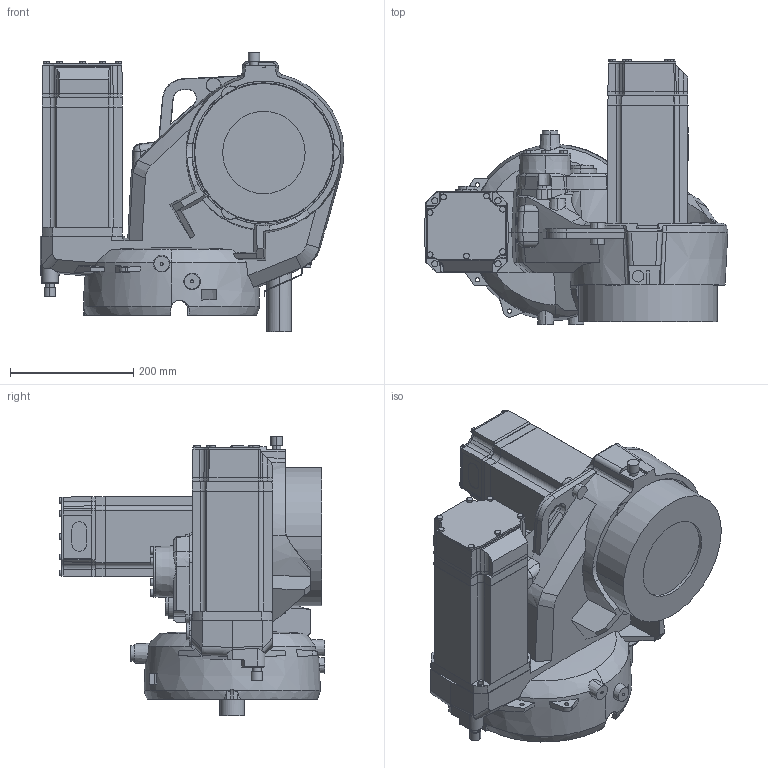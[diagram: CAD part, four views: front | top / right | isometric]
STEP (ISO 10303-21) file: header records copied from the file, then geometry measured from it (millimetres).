
FILE_DESCRIPTION (( 'STEP AP214' ), '1' );
FILE_NAME ('IRB2600_20-165_LINK1_CAD_rev02.STEP', '2016-12-02T11:52:31', ( 'ABB' ), ( 'ABB' ), 'SwSTEP 2.0', 'SolidWorks 2014', '' );
FILE_SCHEMA (( 'AUTOMOTIVE_DESIGN' ));
Length unit declared in the file: millimetre
Products named in the file (1): IRB2600_20-165_LINK1_CAD_rev02
Bounding box: 493.33 x 430.78 x 454 mm (x, y, z)
Volume: 23931572.9 mm3; surface area: 1089456.6 mm2
Topology: 2 solids, 4 shells, 1188 faces, 3126 edges, 2012 vertices
Faces by surface type: plane 642, cylinder 217, cone 213, bspline 109, torus 7
Entity records: 46513 total; most frequent: CARTESIAN_POINT 16849, ORIENTED_EDGE 6250, DIRECTION 5462, EDGE_CURVE 3125, VERTEX_POINT 2012, AXIS2_PLACEMENT_3D 1886, VECTOR 1690, LINE 1690
